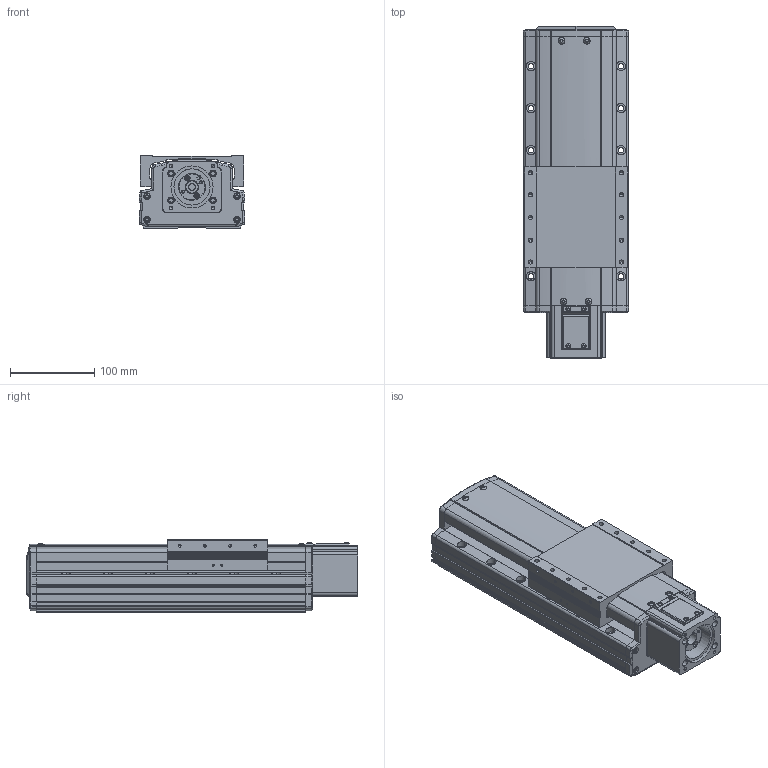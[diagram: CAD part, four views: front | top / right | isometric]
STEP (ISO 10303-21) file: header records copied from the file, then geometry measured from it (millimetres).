
FILE_DESCRIPTION(('STEP AP214'),'1');
FILE_NAME('Z:/Web/3D/PSA125/STP/PSA125-100 (3D)/PSA125ㅁㅁ-100S.stp','2014-06-20T06:55:47',(' '),(' '),'Spatial InterOp 3D',' ',' ');
FILE_SCHEMA(('automotive_design'));
Length unit declared in the file: millimetre
Products named in the file (35): 스크루 : Round - M4.0 x 10.0; RRCV-PA120; SLIDE; BASE; FRCV-PA120-1(기준 뿔 제거); RR1500; 스크루 : Round - M4.0 x 6.0; 너트 : Square - M10.0 x 220.7419; SSFX-SAN65; CPLCV-SAN65; 스크루 : Round - M3.0 x 6.0; MTHZ-PA120-S60A-3; 스크루 : Socket - M4.0 x 20.0; FRCV; NONE
Bounding box: 125 x 394.6 x 86 mm (x, y, z)
Volume: 3130877 mm3; surface area: 369873.7 mm2
Topology: 35 solids, 69 shells, 3088 faces, 7898 edges, 4971 vertices
Faces by surface type: plane 1459, cylinder 963, cone 401, torus 174, sphere 50, bspline 41
Entity records: 121798 total; most frequent: CARTESIAN_POINT 20289, DIRECTION 16578, ORIENTED_EDGE 15520, EDGE_CURVE 7760, AXIS2_PLACEMENT_3D 5968, VERTEX_POINT 4971, LINE 4642, VECTOR 4642
